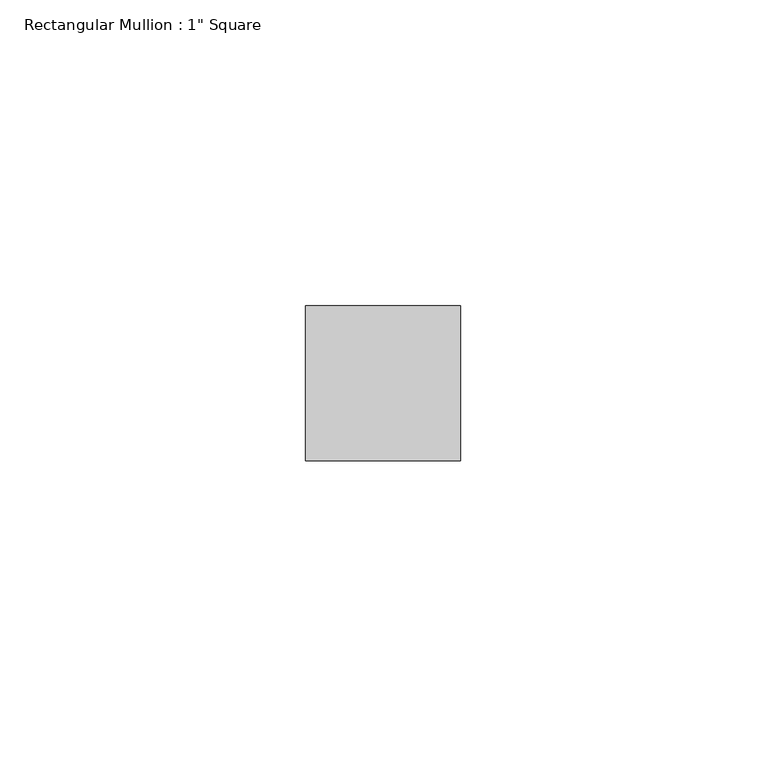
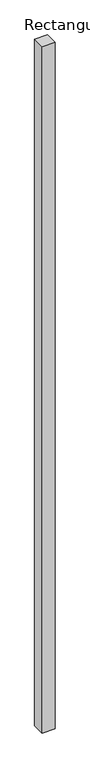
"""IFC4 building model written with IfcOpenShell, lengths in millimetres: member geometry."""

from ifc_helpers import new_model, si_unit, frame, origin, place, context, project, spatial, polyline, outline, extrude, source, transform, mapped, element, save


def member_6834bcaf(model_context):
    return source(origin(), model_context, "Body", "SweptSolid", [
        extrude(outline(polyline([(12.7, 12.7), (12.7, -12.7), (-12.7, -12.7), (-12.7, 12.7), (12.7, 12.7)])), frame((0.0, 0.0, -1428.0328812), z_axis=(0.0, 0.0, 1.0), x_axis=(1.0, 0.0, 0.0)), (0.0, 0.0, 1.0), 1428.0328812),
    ])


if __name__ == "__main__":
    model = new_model("IFC4")
    model_context = context("Model", 3, world=origin())
    ifc_project = project(units=[si_unit("LENGTHUNIT", "METRE", prefix="MILLI")], contexts=[model_context])
    site = spatial("IfcSite", under=ifc_project)
    building = spatial("IfcBuilding", under=site)
    placement = place(None, origin())
    member_shape = member_6834bcaf(model_context)
    element("IfcMember", 1, ObjectType="Rectangular Mullion : 1\" Square", at=placement, inside=building, context=model_context, shape_type="MappedRepresentation", body=[
        mapped(member_shape, transform((0.0, 0.0, 0.0), x_axis=(1.0, 0.0, 0.0), y_axis=(0.0, 1.0, 0.0), z_axis=(0.0, 0.0, 1.0))),
    ])
    save(model, "model.ifc")
